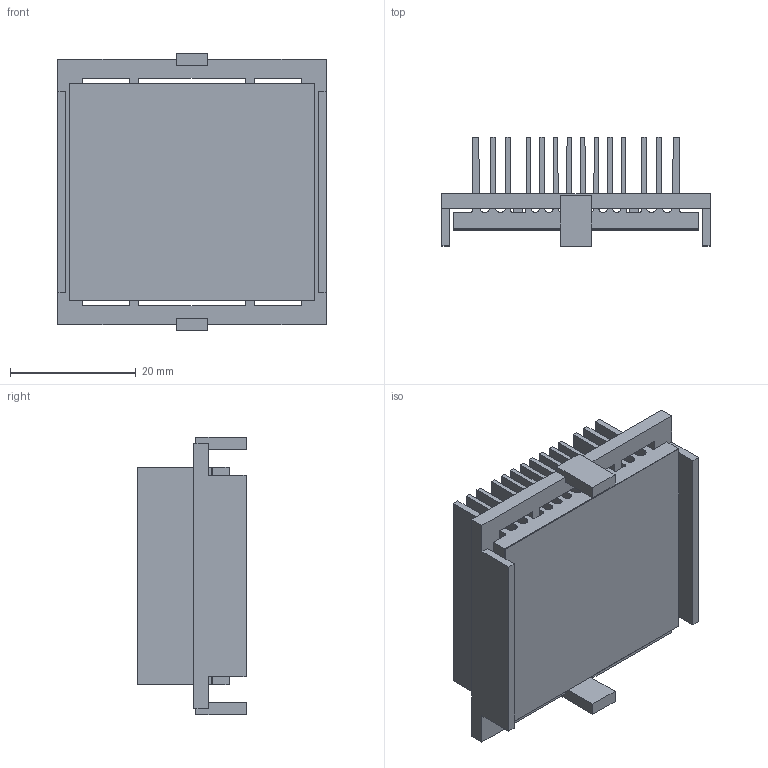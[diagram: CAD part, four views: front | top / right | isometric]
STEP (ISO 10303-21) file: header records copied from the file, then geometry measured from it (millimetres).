
FILE_DESCRIPTION (( 'STEP AP214' ), '1' );
FILE_NAME ('INH40001-15-2.6K30.STEP', '2023-02-20T19:43:33', ( '' ), ( '' ), 'SwSTEP 2.0', 'SolidWorks 2020', '' );
FILE_SCHEMA (( 'AUTOMOTIVE_DESIGN' ));
Length unit declared in the file: millimetre
Products named in the file (1): INH40001-15-2.6K30
Bounding box: 42.7 x 17.4 x 44.2 mm (x, y, z)
Volume: 10377.6 mm3; surface area: 20361.1 mm2
Topology: 3 solids, 3 shells, 150 faces, 432 edges, 288 vertices
Faces by surface type: plane 122, cylinder 28
Entity records: 6578 total; most frequent: CARTESIAN_POINT 871, ORIENTED_EDGE 864, DIRECTION 790, EDGE_CURVE 432, LINE 376, VECTOR 376, VERTEX_POINT 288, AXIS2_PLACEMENT_3D 207
